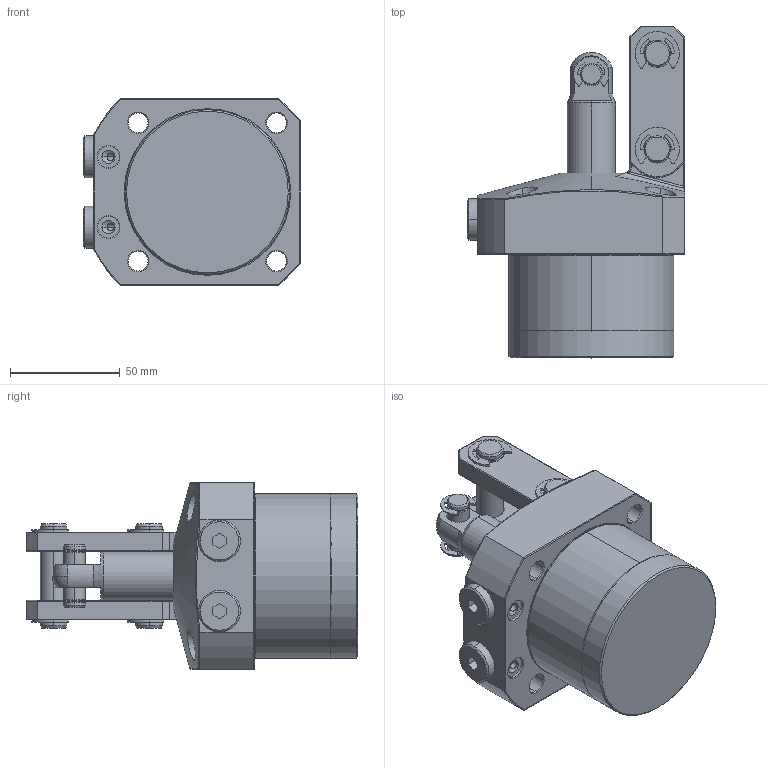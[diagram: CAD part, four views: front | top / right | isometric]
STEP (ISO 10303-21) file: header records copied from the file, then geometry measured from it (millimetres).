
FILE_DESCRIPTION(/* description */ (''),/* implementation_level */ '2;1');
FILE_NAME(/* name */ 'KTPC75-F.stp',/* time_stamp */ '2022-11-18T15:35:18+08:00',/* author */ (''),/* organization */ (''),/* preprocessor_version */ 'ST-DEVELOPER v16.7',/* originating_system */ 'SIEMENS PLM Software NX 12.0',/* authorisation */ '');
FILE_SCHEMA (('AP203_CONFIGURATION_CONTROLLED_3D_DESIGN_OF_MECHANICAL_PARTS_AND_ASSEMBLIES_MIM_LF { 1 0 10303 403 2 1 2}'));
Length unit declared in the file: millimetre
Products named in the file (10): KTPC75-F-01; KTPC75-F-06; KTPC75-F-09; KTPC75-F-03; KTPC75-F-02; KTPC75-F-07; KTPC75-F-08; KTPC75-F-05; KTPC75-F-04; LKA0750-CC_step
Assembly tree (16 placements, depth 2):
  LKA0750-CC_step
    KTPC75-F-04  x2
    KTPC75-F-05  x2
    KTPC75-F-08  x4
    KTPC75-F-07  x2
    KTPC75-F-02
    KTPC75-F-03
    KTPC75-F-09  x2
    KTPC75-F-06
    KTPC75-F-01
Bounding box: 99 x 151 x 85 mm (x, y, z)
Volume: 663519.8 mm3; surface area: 84351.5 mm2
Topology: 16 solids, 16 shells, 558 faces, 1346 edges, 842 vertices
Faces by surface type: cylinder 260, plane 147, cone 68, torus 64, bspline 17, sphere 2
Full cylindrical faces by diameter (mm): 75 x1
Entity records: 12567 total; most frequent: CARTESIAN_POINT 3093, DIRECTION 1792, ORIENTED_EDGE 1652, EDGE_CURVE 826, AXIS2_PLACEMENT_3D 735, VERTEX_POINT 512, EDGE_LOOP 390, CIRCLE 384
